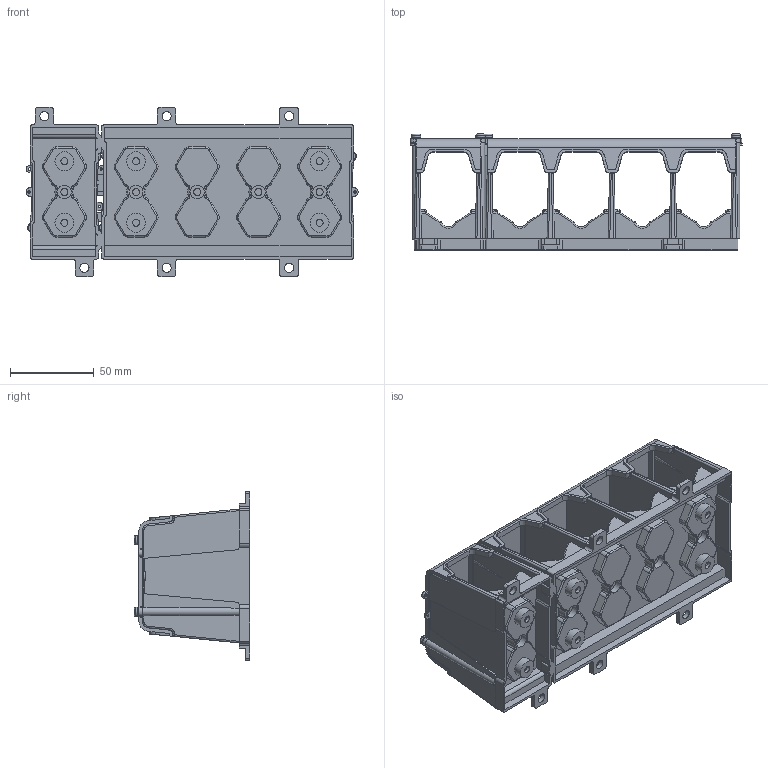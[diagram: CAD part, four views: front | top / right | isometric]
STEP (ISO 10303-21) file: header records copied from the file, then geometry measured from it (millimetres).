
FILE_DESCRIPTION(/* description */ ('Unknown'),/* implementation_level */ '2;1');
FILE_NAME(/* name */ 'DTS 5x',/* time_stamp */ '2024-05-20T11:20:36+02:00',/* author */ ('Unknown'),/* organization */ ('Unknown'),/* preprocessor_version */ 'ST-DEVELOPER v18.104',/* originating_system */ 'Solid Edge',/* authorisation */ 'Unknown');
FILE_SCHEMA (('AP242_MANAGED_MODEL_BASED_3D_ENGINEERING_MIM_LF { 1 0 10303 442 1 1 4 }','AUTOMOTIVE_DESIGN {1 0 10303 214 3 1 1}'));
Products named in the file (1): DTS 5x
Bounding box: 198.2 x 69.2 x 101.2 mm (x, y, z)
Volume: 178576.4 mm3; surface area: 156757.7 mm2
Topology: 1 solids, 1 shells, 2630 faces, 7176 edges, 4241 vertices
Faces by surface type: plane 1115, cylinder 1033, torus 237, bspline 125, sphere 120
Full cylindrical faces by diameter (mm): 1.4 x8, 4.2 x11, 5.4 x4, 5.5 x10, 8 x6, 8.2 x5, 11.3 x6
Entity records: 81666 total; most frequent: CARTESIAN_POINT 16636, DIRECTION 14124, ORIENTED_EDGE 13466, EDGE_CURVE 6733, AXIS2_PLACEMENT_3D 5060, VERTEX_POINT 4189, LINE 4004, VECTOR 4004
